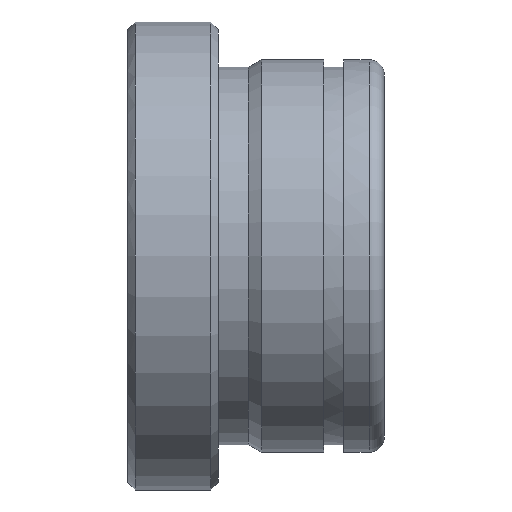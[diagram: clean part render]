
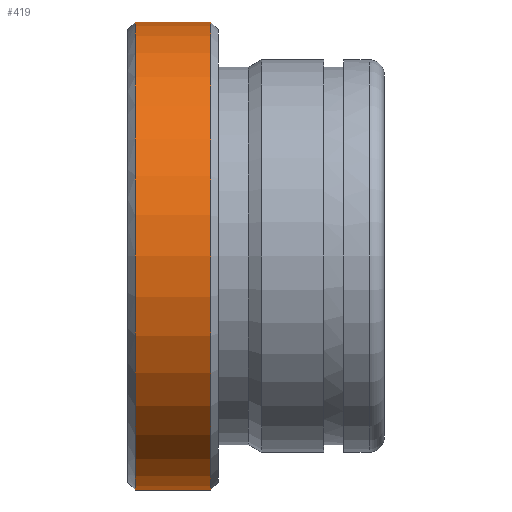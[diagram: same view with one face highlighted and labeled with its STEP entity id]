
A CAD part, front view. The second image highlights one B-rep face of the part: STEP entity #419.
In plain terms, the highlighted cylindrical face has radius 15.5 mm (diameter 31 mm), a partial arc.
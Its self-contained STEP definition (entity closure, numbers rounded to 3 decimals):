
#231=CARTESIAN_POINT('Vertex',(0.5,0.,-15.5)) ;
#238=CARTESIAN_POINT('Vertex',(0.5,0.,15.5)) ;
#267=CARTESIAN_POINT('Axis2P3D Location',(0.5,0.,0.)) ;
#271=CARTESIAN_POINT('Vertex',(0.5,-15.5,0.)) ;
#274=CARTESIAN_POINT('Axis2P3D Location',(0.5,0.,0.)) ;
#359=CARTESIAN_POINT('Line Origine',(34.,0.,15.5)) ;
#363=CARTESIAN_POINT('Vertex',(5.5,0.,15.5)) ;
#377=CARTESIAN_POINT('Vertex',(5.5,0.,-15.5)) ;
#380=CARTESIAN_POINT('Line Origine',(34.,0.,-15.5)) ;
#394=CARTESIAN_POINT('Axis2P3D Location',(34.,0.,0.)) ;
#399=CARTESIAN_POINT('Axis2P3D Location',(5.5,0.,0.)) ;
#403=CARTESIAN_POINT('Vertex',(5.5,-15.5,0.)) ;
#406=CARTESIAN_POINT('Axis2P3D Location',(5.5,0.,0.)) ;
#268=DIRECTION('Axis2P3D Direction',(1.,0.,-0.)) ;
#275=DIRECTION('Axis2P3D Direction',(1.,0.,-0.)) ;
#360=DIRECTION('Vector Direction',(-1.,0.,0.)) ;
#381=DIRECTION('Vector Direction',(-1.,0.,0.)) ;
#395=DIRECTION('Axis2P3D Direction',(-1.,-0.,-0.)) ;
#396=DIRECTION('Axis2P3D XDirection',(0.,0.,-1.)) ;
#400=DIRECTION('Axis2P3D Direction',(-1.,-0.,-0.)) ;
#407=DIRECTION('Axis2P3D Direction',(-1.,-0.,-0.)) ;
#269=AXIS2_PLACEMENT_3D('Circle Axis2P3D',#267,#268,$) ;
#276=AXIS2_PLACEMENT_3D('Circle Axis2P3D',#274,#275,$) ;
#397=AXIS2_PLACEMENT_3D('Cylinder Axis2P3D',#394,#395,#396) ;
#401=AXIS2_PLACEMENT_3D('Circle Axis2P3D',#399,#400,$) ;
#408=AXIS2_PLACEMENT_3D('Circle Axis2P3D',#406,#407,$) ;
#412=ORIENTED_EDGE('',*,*,#384,.T.) ;
#413=ORIENTED_EDGE('',*,*,#405,.F.) ;
#414=ORIENTED_EDGE('',*,*,#410,.F.) ;
#415=ORIENTED_EDGE('',*,*,#365,.T.) ;
#416=ORIENTED_EDGE('',*,*,#278,.T.) ;
#417=ORIENTED_EDGE('',*,*,#273,.T.) ;
#361=VECTOR('Line Direction',#360,1.) ;
#382=VECTOR('Line Direction',#381,1.) ;
#419=ADVANCED_FACE('553-20X17',(#418),#398,.T.) ;
#270=CIRCLE('generated circle',#269,15.5) ;
#277=CIRCLE('generated circle',#276,15.5) ;
#402=CIRCLE('generated circle',#401,15.5) ;
#409=CIRCLE('generated circle',#408,15.5) ;
#398=CYLINDRICAL_SURFACE('generated cylinder',#397,15.5) ;
#273=EDGE_CURVE('',#272,#232,#270,.T.) ;
#278=EDGE_CURVE('',#239,#272,#277,.T.) ;
#365=EDGE_CURVE('',#364,#239,#362,.T.) ;
#384=EDGE_CURVE('',#232,#378,#383,.F.) ;
#405=EDGE_CURVE('',#404,#378,#402,.F.) ;
#410=EDGE_CURVE('',#364,#404,#409,.F.) ;
#411=EDGE_LOOP('',(#412,#413,#414,#415,#416,#417)) ;
#418=FACE_OUTER_BOUND('',#411,.T.) ;
#362=LINE('Line',#359,#361) ;
#383=LINE('Line',#380,#382) ;
#232=VERTEX_POINT('',#231) ;
#239=VERTEX_POINT('',#238) ;
#272=VERTEX_POINT('',#271) ;
#364=VERTEX_POINT('',#363) ;
#378=VERTEX_POINT('',#377) ;
#404=VERTEX_POINT('',#403) ;
